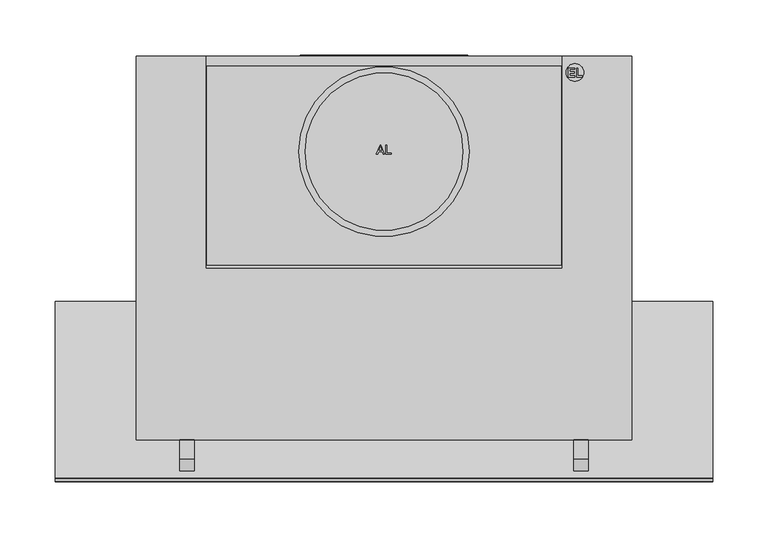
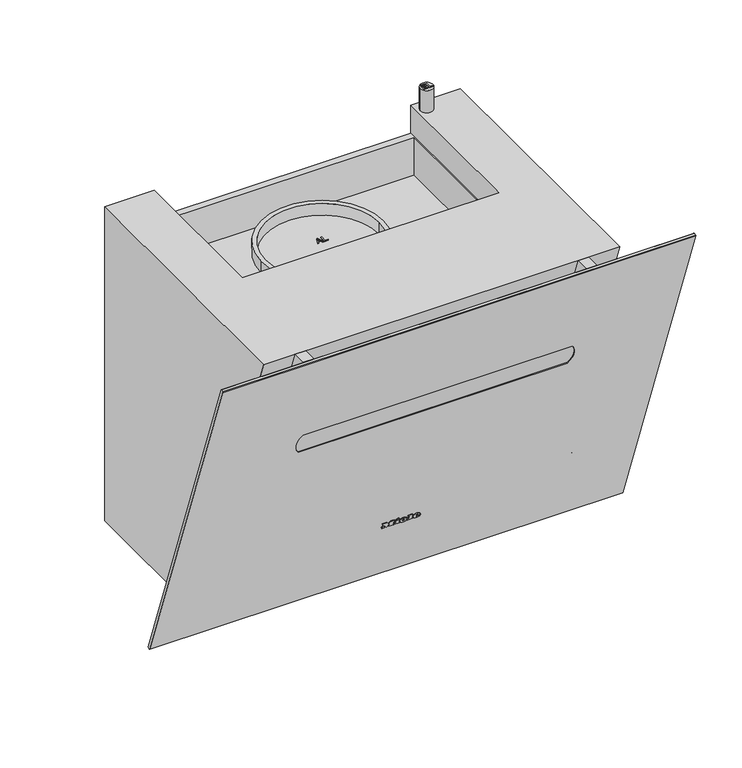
"""IFC4 building model written with IfcOpenShell, lengths in millimetres: proxy geometry, 12553490_IB_DAH1650_BRWS : 28H1650W_IB_12553490_DAH1650_BRWS."""

from ifc_helpers import new_model, si_unit, point, frame, frame_2d, origin, origin_with_axes, place, context, project, spatial, polyline, circle_curve, ellipse_curve, trimmed, segment, composite_curve, outline, extrude, faceted_brep, source, transform, mapped, element, save
from ifc_brep_helpers import plane_surface, cylinder_surface, revolved_surface, extruded_surface, advanced_brep


def specialty_equipment_b5b5ebc4(model_context):
    return source(origin(), model_context, "Body", "SolidModel", [
        extrude(outline(polyline([(0.0, 0.0), (0.968, 0.0), (0.968, 5.352), (0.0, 5.352), (0.0, 6.696), (3.52, 6.696), (3.52, 5.352), (2.56, 5.352), (2.56, 1.9488753), (6.136, 6.696), (9.728, 1.8807777), (9.728, 5.352), (8.744, 5.352), (8.744, 6.696), (15.128, 6.696), (15.128, 5.352), (14.112, 5.352), (14.112, 0.0), (15.128, 0.0), (15.128, -1.304), (10.256, -1.304), (7.92, 1.696), (5.576, -1.304), (0.0, -1.304), (0.0, 0.0)])), frame((-24.271984, -261.1380975, 82.2921818), z_axis=(0.0, 0.9396926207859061, 0.34202014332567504), x_axis=(1.0, 0.0, 0.0)), (0.0, 0.0, 1.0), 1.0),
        extrude(outline(polyline([(0.0, 0.0), (0.96, 0.0), (0.96, 5.352), (0.0, 5.352), (0.0, 6.696), (6.488, 6.696), (6.488, 5.352), (5.504, 5.352), (5.504, -1.304), (0.0, -1.304), (0.0, 0.0)])), frame((8.192016, -261.1380975, 82.2921818), z_axis=(0.0, 0.9396926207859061, 0.34202014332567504), x_axis=(1.0, 0.0, 0.0)), (0.0, 0.0, 1.0), 1.0),
        extrude(outline(polyline([(0.0, 0.0), (1.4315306, 0.0), (1.4390414, -2.9920869), (0.0109086, -2.9993294), (0.0, 0.0)])), frame((-6.351984, -261.4226582, 83.074006), z_axis=(0.0, 0.9396926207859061, 0.342020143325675), x_axis=(0.42472021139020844, 0.30963927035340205, -0.8507269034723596)), (0.0, 0.0, 1.0), 1.0),
        extrude(outline(polyline([(0.4933907, 2.4141097), (1.7898156, 3.022309), (2.1941493, 2.1604399), (5.1636141, 3.5535222), (4.7592805, 4.4153913), (5.9760369, 4.9862153), (8.6568708, -0.728194), (7.4401145, -1.299018), (7.0459741, -0.4588767), (2.7800843, -2.4601583), (0.4933907, 2.4141097)])), frame((-6.351984, -261.4226582, 83.074006), z_axis=(0.0, 0.9396926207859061, 0.342020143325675), x_axis=(0.42472021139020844, 0.30963927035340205, -0.8507269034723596)), (0.0, 0.0, 1.0), 1.0),
        advanced_brep(
        [(2.392016, -259.4964008, 77.7816572), (2.392016, -259.7727531, 78.5409288), (7.744016, -259.7727531, 78.5409288), (-1.567984, -259.7727531, 78.5409288), (0.632016, -258.8479306, 76.0), (7.608016, -259.4964008, 77.7816572), (5.192016, -259.4964008, 77.7816572), (3.288016, -259.1899507, 76.9396926), (2.392016, -260.1229817, 79.5031741), (2.392016, -260.4212233, 80.3225861), (3.760016, -260.4212233, 80.3225861), (3.760016, -260.1229817, 79.5031741), (2.392016, -258.5567082, 78.1236774), (3.288016, -258.2502581, 77.2817128), (5.192016, -258.5567082, 78.1236774), (7.608016, -258.5567082, 78.1236774), (0.632016, -257.908238, 76.3420201), (-1.567984, -258.8330604, 78.882949), (7.744016, -258.8330604, 78.882949), (2.392016, -258.8330604, 78.882949), (2.392016, -259.1832891, 79.8451942), (3.760016, -259.1832891, 79.8451942), (3.760016, -259.4815306, 80.6646062), (2.392016, -259.4815306, 80.6646062)],
        [
            (0, 1),
            (1, 2),
            (2, 3, ellipse_curve(frame((3.088016, -259.7727531, 78.5409288), z_axis=(0.0, -0.9396926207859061, -0.34202014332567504), x_axis=(-1.0, 0.0, 0.0)), 4.656, 3.848)),
            (3, 4, circle_curve(frame((1.5280596, -259.8657825, 78.7965252), z_axis=(0.0, -0.9396926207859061, -0.34202014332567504), x_axis=(0.0, 0.34202014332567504, -0.9396926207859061)), 3.1079688)),
            (4, 5, circle_curve(frame((2.9948096, -260.5881291, 80.7811561), z_axis=(0.0, -0.9396926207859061, -0.34202014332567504), x_axis=(0.0, 0.34202014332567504, -0.9396926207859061)), 5.6098607)),
            (5, 6),
            (6, 7, circle_curve(frame((3.6790748, -259.7508638, 78.4807885), z_axis=(0.0, 0.9396926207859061, 0.34202014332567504), x_axis=(0.0, 0.34202014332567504, -0.9396926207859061)), 1.6859795)),
            (7, 0, circle_curve(frame((3.288016, -259.4964008, 77.7816572), z_axis=(0.0, 0.9396926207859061, 0.34202014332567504), x_axis=(0.0, 0.34202014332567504, -0.9396926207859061)), 0.896)),
            (8, 9),
            (9, 10, circle_curve(frame((3.076016, -260.4212233, 80.3225861), z_axis=(0.0, 0.9396926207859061, 0.34202014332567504), x_axis=(0.0, 0.34202014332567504, -0.9396926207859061)), 0.684)),
            (10, 11),
            (11, 8),
            (12, 13, circle_curve(frame((3.288016, -258.5567082, 78.1236774), z_axis=(0.0, -0.9396926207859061, -0.34202014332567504), x_axis=(0.0, 0.34202014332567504, -0.9396926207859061)), 0.896)),
            (13, 14, circle_curve(frame((3.6790748, -258.8111712, 78.8228087), z_axis=(0.0, -0.9396926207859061, -0.34202014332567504), x_axis=(0.0, 0.34202014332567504, -0.9396926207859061)), 1.6859795)),
            (14, 15),
            (15, 16, circle_curve(frame((2.9948096, -259.6484365, 81.1231762), z_axis=(0.0, 0.9396926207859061, 0.34202014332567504), x_axis=(0.0, 0.34202014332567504, -0.9396926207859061)), 5.6098607)),
            (16, 17, circle_curve(frame((1.5280596, -258.9260899, 79.1385454), z_axis=(0.0, 0.9396926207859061, 0.34202014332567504), x_axis=(0.0, 0.34202014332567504, -0.9396926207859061)), 3.1079688)),
            (17, 18, ellipse_curve(frame((3.088016, -258.8330604, 78.882949), z_axis=(0.0, 0.9396926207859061, 0.34202014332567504), x_axis=(-1.0, 0.0, 0.0)), 4.656, 3.848)),
            (18, 19),
            (19, 12),
            (20, 21),
            (21, 22),
            (22, 23, circle_curve(frame((3.076016, -259.4815306, 80.6646062), z_axis=(0.0, -0.9396926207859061, -0.34202014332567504), x_axis=(0.0, 0.34202014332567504, -0.9396926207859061)), 0.684)),
            (23, 20),
            (0, 12),
            (19, 1),
            (18, 2),
            (5, 15),
            (14, 6),
            (17, 3),
            (13, 7),
            (16, 4),
            (8, 20),
            (23, 9),
            (22, 10),
            (21, 11),
        ],
        [
            plane_surface(frame((2.392016, -259.7727531, 78.5409288), z_axis=(0.0, -0.9396926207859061, -0.34202014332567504), x_axis=(0.0, -0.34202014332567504, 0.9396926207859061))),
            plane_surface(frame((2.392016, -258.8330604, 78.882949), z_axis=(0.0, 0.9396926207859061, 0.34202014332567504), x_axis=(0.0, 0.34202014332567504, -0.9396926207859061))),
            plane_surface(frame((2.392016, -259.4964008, 77.7816572), z_axis=(1.0, 0.0, 0.0), x_axis=(0.0, 0.9396926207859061, 0.34202014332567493))),
            plane_surface(frame((2.392016, -259.7727531, 78.5409288), z_axis=(0.0, 0.34202014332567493, -0.9396926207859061), x_axis=(0.0, 0.9396926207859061, 0.34202014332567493))),
            plane_surface(frame((7.608016, -259.4964008, 77.7816572), z_axis=(0.0, -0.34202014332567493, 0.9396926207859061), x_axis=(0.0, 0.9396926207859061, 0.34202014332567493))),
            extruded_surface(trimmed(ellipse_curve(frame((3.088016, -257.8933678, 79.2249691), z_axis=(0.0, -0.9396926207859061, -0.34202014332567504), x_axis=(-1.0, 0.0, 0.0)), 4.656, 3.848), [point((7.744016, -257.8933678, 79.2249691))], [point((-1.567984, -257.8933678, 79.2249691))], True, "CARTESIAN"), (0.0, -0.9396926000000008, -0.34202009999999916), 0.9999999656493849),
            revolved_surface(polyline([(3.6790748, -258.2345321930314, 77.23850622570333), (3.6790748, -259.1742248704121, 76.89648606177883)]), (3.6790748, -258.8111712, 78.8228087), (0.0, 0.9396926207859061, 0.34202014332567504)),
            revolved_surface(polyline([(3.288016, -258.25025810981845, 77.28171282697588), (3.288016, -259.1899507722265, 76.93969266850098)]), (3.288016, -258.5567082, 78.1236774), (0.0, 0.9396926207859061, 0.34202014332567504)),
            cylinder_surface(frame((1.5280596, -258.9260899, 79.1385454), z_axis=(0.0, -0.9396926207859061, -0.34202014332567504), x_axis=(0.0, 0.34202014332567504, -0.9396926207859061)), 3.1079688),
            cylinder_surface(frame((2.9948096, -259.6484365, 81.1231762), z_axis=(0.0, -0.9396926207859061, -0.34202014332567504), x_axis=(0.0, 0.34202014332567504, -0.9396926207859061)), 5.6098607),
            plane_surface(frame((2.392016, -260.1229817, 79.5031741), z_axis=(1.0, 0.0, 0.0), x_axis=(0.0, 0.9396926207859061, 0.34202014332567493))),
            revolved_surface(polyline([(3.076016, -259.2475888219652, 80.02185644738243), (3.076016, -260.1872814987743, 79.67983628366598)]), (3.076016, -259.4815306, 80.6646062), (0.0, 0.9396926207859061, 0.34202014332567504)),
            plane_surface(frame((3.760016, -260.4212233, 80.3225861), z_axis=(-1.0, 0.0, 0.0), x_axis=(0.0, 0.9396926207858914, 0.3420201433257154))),
            plane_surface(frame((3.760016, -260.1229817, 79.5031741), z_axis=(0.0, -0.34202014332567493, 0.9396926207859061), x_axis=(0.0, 0.9396926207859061, 0.34202014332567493))),
        ],
        [
            (0, [[1, 2, 3, 4, 5, 6, 7, 8], [9, 10, 11, 12]]),
            (1, [[13, 14, 15, 16, 17, 18, 19, 20], [21, 22, 23, 24]]),
            (2, [[-1, 25, -20, 26]]),
            (3, [[-2, -26, -19, 27]]),
            (4, [[-6, 28, -15, 29]]),
            (5, [[-3, -27, -18, 30]]),
            (6, [[-7, -29, -14, 31]]),
            (7, [[-8, -31, -13, -25]]),
            (8, [[-4, -30, -17, 32]]),
            (9, [[-5, -32, -16, -28]]),
            (10, [[-9, 33, -24, 34]]),
            (11, [[-10, -34, -23, 35]]),
            (12, [[-11, -35, -22, 36]]),
            (13, [[-12, -36, -21, -33]]),
        ],
    ),
        advanced_brep(
        [(19.088016, -259.4964008, 77.7816572), (19.088016, -259.7727531, 78.5409288), (24.440016, -259.7727531, 78.5409288), (15.128016, -259.7727531, 78.5409288), (17.328016, -258.8479306, 76.0), (24.304016, -259.4964008, 77.7816572), (21.888016, -259.4964008, 77.7816572), (19.984016, -259.1899507, 76.9396926), (19.088016, -260.1229817, 79.5031741), (19.088016, -260.4212233, 80.3225861), (20.456016, -260.4212233, 80.3225861), (20.456016, -260.1229817, 79.5031741), (19.088016, -258.5567082, 78.1236774), (19.984016, -258.2502581, 77.2817128), (21.888016, -258.5567082, 78.1236774), (24.304016, -258.5567082, 78.1236774), (17.328016, -257.908238, 76.3420201), (15.128016, -258.8330604, 78.882949), (24.440016, -258.8330604, 78.882949), (19.088016, -258.8330604, 78.882949), (19.088016, -259.1832891, 79.8451942), (20.456016, -259.1832891, 79.8451942), (20.456016, -259.4815306, 80.6646062), (19.088016, -259.4815306, 80.6646062)],
        [
            (0, 1),
            (1, 2),
            (2, 3, ellipse_curve(frame((19.784016, -259.7727531, 78.5409288), z_axis=(0.0, -0.9396926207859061, -0.34202014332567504), x_axis=(-1.0, 0.0, 0.0)), 4.656, 3.848)),
            (3, 4, circle_curve(frame((18.2240596, -259.8657825, 78.7965252), z_axis=(0.0, -0.9396926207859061, -0.34202014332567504), x_axis=(0.0, 0.34202014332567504, -0.9396926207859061)), 3.1079688)),
            (4, 5, circle_curve(frame((19.6908096, -260.5881291, 80.7811561), z_axis=(0.0, -0.9396926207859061, -0.34202014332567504), x_axis=(0.0, 0.34202014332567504, -0.9396926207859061)), 5.6098607)),
            (5, 6),
            (6, 7, circle_curve(frame((20.3750748, -259.7508638, 78.4807885), z_axis=(0.0, 0.9396926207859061, 0.34202014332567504), x_axis=(0.0, 0.34202014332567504, -0.9396926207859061)), 1.6859795)),
            (7, 0, circle_curve(frame((19.984016, -259.4964008, 77.7816572), z_axis=(0.0, 0.9396926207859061, 0.34202014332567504), x_axis=(0.0, 0.34202014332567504, -0.9396926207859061)), 0.896)),
            (8, 9),
            (9, 10, circle_curve(frame((19.772016, -260.4212233, 80.3225861), z_axis=(0.0, 0.9396926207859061, 0.34202014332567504), x_axis=(0.0, 0.34202014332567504, -0.9396926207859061)), 0.684)),
            (10, 11),
            (11, 8),
            (12, 13, circle_curve(frame((19.984016, -258.5567082, 78.1236774), z_axis=(0.0, -0.9396926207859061, -0.34202014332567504), x_axis=(0.0, 0.34202014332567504, -0.9396926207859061)), 0.896)),
            (13, 14, circle_curve(frame((20.3750748, -258.8111712, 78.8228087), z_axis=(0.0, -0.9396926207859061, -0.34202014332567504), x_axis=(0.0, 0.34202014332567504, -0.9396926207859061)), 1.6859795)),
            (14, 15),
            (15, 16, circle_curve(frame((19.6908096, -259.6484365, 81.1231762), z_axis=(0.0, 0.9396926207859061, 0.34202014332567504), x_axis=(0.0, 0.34202014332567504, -0.9396926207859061)), 5.6098607)),
            (16, 17, circle_curve(frame((18.2240596, -258.9260899, 79.1385454), z_axis=(0.0, 0.9396926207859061, 0.34202014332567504), x_axis=(0.0, 0.34202014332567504, -0.9396926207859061)), 3.1079688)),
            (17, 18, ellipse_curve(frame((19.784016, -258.8330604, 78.882949), z_axis=(0.0, 0.9396926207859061, 0.34202014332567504), x_axis=(-1.0, 0.0, 0.0)), 4.656, 3.848)),
            (18, 19),
            (19, 12),
            (20, 21),
            (21, 22),
            (22, 23, circle_curve(frame((19.772016, -259.4815306, 80.6646062), z_axis=(0.0, -0.9396926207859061, -0.34202014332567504), x_axis=(0.0, 0.34202014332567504, -0.9396926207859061)), 0.684)),
            (23, 20),
            (0, 12),
            (19, 1),
            (18, 2),
            (5, 15),
            (14, 6),
            (17, 3),
            (13, 7),
            (16, 4),
            (8, 20),
            (23, 9),
            (22, 10),
            (21, 11),
        ],
        [
            plane_surface(frame((19.088016, -259.7727531, 78.5409288), z_axis=(0.0, -0.9396926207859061, -0.34202014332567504), x_axis=(0.0, -0.34202014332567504, 0.9396926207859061))),
            plane_surface(frame((19.088016, -258.8330604, 78.882949), z_axis=(0.0, 0.9396926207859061, 0.34202014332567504), x_axis=(0.0, 0.34202014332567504, -0.9396926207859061))),
            plane_surface(frame((19.088016, -259.4964008, 77.7816572), z_axis=(1.0, 0.0, 0.0), x_axis=(0.0, 0.9396926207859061, 0.34202014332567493))),
            plane_surface(frame((19.088016, -259.7727531, 78.5409288), z_axis=(0.0, 0.34202014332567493, -0.9396926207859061), x_axis=(0.0, 0.9396926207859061, 0.34202014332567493))),
            plane_surface(frame((24.304016, -259.4964008, 77.7816572), z_axis=(0.0, -0.34202014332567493, 0.9396926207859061), x_axis=(0.0, 0.9396926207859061, 0.34202014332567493))),
            extruded_surface(trimmed(ellipse_curve(frame((19.784016, -257.8933678, 79.2249691), z_axis=(0.0, -0.9396926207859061, -0.34202014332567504), x_axis=(-1.0, 0.0, 0.0)), 4.656, 3.848), [point((24.440016, -257.8933678, 79.2249691))], [point((15.128016, -257.8933678, 79.2249691))], True, "CARTESIAN"), (0.0, -0.9396926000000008, -0.34202009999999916), 0.9999999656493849),
            revolved_surface(polyline([(20.3750748, -258.2345321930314, 77.23850622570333), (20.3750748, -259.1742248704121, 76.89648606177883)]), (20.3750748, -258.8111712, 78.8228087), (0.0, 0.9396926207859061, 0.34202014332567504)),
            revolved_surface(polyline([(19.984016, -258.25025810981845, 77.28171282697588), (19.984016, -259.1899507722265, 76.93969266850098)]), (19.984016, -258.5567082, 78.1236774), (0.0, 0.9396926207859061, 0.34202014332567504)),
            cylinder_surface(frame((18.2240596, -258.9260899, 79.1385454), z_axis=(0.0, -0.9396926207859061, -0.34202014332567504), x_axis=(0.0, 0.34202014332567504, -0.9396926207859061)), 3.1079688),
            cylinder_surface(frame((19.6908096, -259.6484365, 81.1231762), z_axis=(0.0, -0.9396926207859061, -0.34202014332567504), x_axis=(0.0, 0.34202014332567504, -0.9396926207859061)), 5.6098607),
            plane_surface(frame((19.088016, -260.1229817, 79.5031741), z_axis=(1.0, 0.0, 0.0), x_axis=(0.0, 0.9396926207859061, 0.34202014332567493))),
            revolved_surface(polyline([(19.772016, -259.2475888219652, 80.02185644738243), (19.772016, -260.1872814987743, 79.67983628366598)]), (19.772016, -259.4815306, 80.6646062), (0.0, 0.9396926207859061, 0.34202014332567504)),
            plane_surface(frame((20.456016, -260.4212233, 80.3225861), z_axis=(-1.0, 0.0, 0.0), x_axis=(0.0, 0.9396926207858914, 0.3420201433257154))),
            plane_surface(frame((20.456016, -260.1229817, 79.5031741), z_axis=(0.0, -0.34202014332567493, 0.9396926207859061), x_axis=(0.0, 0.9396926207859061, 0.34202014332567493))),
        ],
        [
            (0, [[1, 2, 3, 4, 5, 6, 7, 8], [9, 10, 11, 12]]),
            (1, [[13, 14, 15, 16, 17, 18, 19, 20], [21, 22, 23, 24]]),
            (2, [[-1, 25, -20, 26]]),
            (3, [[-2, -26, -19, 27]]),
            (4, [[-6, 28, -15, 29]]),
            (5, [[-3, -27, -18, 30]]),
            (6, [[-7, -29, -14, 31]]),
            (7, [[-8, -31, -13, -25]]),
            (8, [[-4, -30, -17, 32]]),
            (9, [[-5, -32, -16, -28]]),
            (10, [[-9, 33, -24, 34]]),
            (11, [[-10, -34, -23, 35]]),
            (12, [[-11, -35, -22, 36]]),
            (13, [[-12, -36, -21, -33]]),
        ],
    ),
        advanced_brep(
        [(-198.5, -225.9485265, 82.132138), (-198.5, -235.8911369, 109.4492355), (-198.5, -230.9198317, 95.7906867), (-198.5, -231.2422284, 80.5173231), (-198.5, -240.9843308, 107.2835295), (-198.5, -250.514978, 76.8365225), (-198.5, -258.1140866, 97.7149017), (-198.5, -251.4164577, 77.3487429), (-198.5, -258.4754112, 96.7430581), (-198.5, -254.9459345, 87.0459005)],
        [
            (0, 1, circle_curve(frame((-198.5, -230.9198317, 95.7906867), z_axis=(0.0, 0.9396926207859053, 0.3420201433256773), x_axis=(0.0, -0.3420201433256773, 0.9396926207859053)), 14.535124)),
            (1, 2),
            (2, 0),
            (1, 0, circle_curve(frame((-198.5, -230.9198317, 95.7906867), z_axis=(0.0, 0.9396926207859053, 0.3420201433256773), x_axis=(0.0, -0.3420201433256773, 0.9396926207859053)), 14.535124)),
            (3, 4, circle_curve(frame((-198.5, -236.1132796, 93.9004263), z_axis=(0.0, 0.9396926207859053, 0.3420201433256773), x_axis=(0.0, -0.3420201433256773, 0.9396926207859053)), 14.2420009)),
            (4, 1),
            (0, 3),
            (4, 3, circle_curve(frame((-198.5, -236.1132796, 93.9004263), z_axis=(0.0, 0.9396926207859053, 0.3420201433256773), x_axis=(0.0, -0.3420201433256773, 0.9396926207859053)), 14.2420009)),
            (5, 6, circle_curve(frame((-198.5, -254.3145323, 87.2757121), z_axis=(0.0, 0.9396926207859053, 0.3420201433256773), x_axis=(0.0, -0.3420201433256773, 0.9396926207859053)), 11.1091535)),
            (6, 4),
            (3, 5),
            (6, 5, circle_curve(frame((-198.5, -254.3145323, 87.2757121), z_axis=(0.0, 0.9396926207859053, 0.3420201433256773), x_axis=(0.0, -0.3420201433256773, 0.9396926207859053)), 11.1091535)),
            (7, 8, circle_curve(frame((-198.5, -254.9459345, 87.0459005), z_axis=(0.0, 0.9396926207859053, 0.3420201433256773), x_axis=(0.0, -0.3420201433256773, 0.9396926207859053)), 10.3194996)),
            (8, 6),
            (5, 7),
            (8, 7, circle_curve(frame((-198.5, -254.9459345, 87.0459005), z_axis=(0.0, 0.9396926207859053, 0.3420201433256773), x_axis=(0.0, -0.3420201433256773, 0.9396926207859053)), 10.3194996)),
            (9, 8),
            (7, 9),
        ],
        [
            plane_surface(frame((-198.5, -230.9198317, 95.7906867), z_axis=(0.0, 0.9396926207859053, 0.3420201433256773), x_axis=(0.0, -0.3420201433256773, 0.9396926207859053))),
            revolved_surface(polyline([(-198.5, -235.8312261, 109.4708926), (-198.5, -240.9843308, 107.2835295)]), (-198.5, -255.2773841, 86.9252627), (0.0, -0.9396926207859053, -0.3420201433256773)),
            revolved_surface(polyline([(-198.5, -240.9843308, 107.2835295), (-198.5, -258.1140866, 97.7149017)]), (-198.5, -255.2773841, 86.9252627), (0.0, -0.9396926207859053, -0.3420201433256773)),
            revolved_surface(polyline([(-198.5, -258.1140866, 97.7149017), (-198.5, -258.4754112, 96.7430581)]), (-198.5, -255.2773841, 86.9252627), (0.0, -0.9396926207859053, -0.3420201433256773)),
            plane_surface(frame((-198.5, -254.9459345, 87.0459005), z_axis=(0.0, -0.9396926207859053, -0.3420201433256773), x_axis=(0.0, -0.3420201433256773, 0.9396926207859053))),
        ],
        [
            (0, [[1, 2, 3]]),
            (0, [[4, -3, -2]]),
            (1, [[5, 6, -1, 7]]),
            (1, [[8, -7, -4, -6]]),
            (2, [[9, 10, -5, 11]]),
            (2, [[12, -11, -8, -10]]),
            (3, [[13, 14, -9, 15]]),
            (3, [[16, -15, -12, -14]]),
            (4, [[17, -13, 18]]),
            (4, [[-18, -16, -17]]),
        ],
    ),
        advanced_brep(
        [(-198.5, -249.4001153, 68.4387353), (-198.5, -262.8067778, 105.2732379), (-198.5, -257.0531232, 93.8737841), (-198.5, -252.3199878, 80.8696014), (-198.5, -250.699917, 68.232867), (-198.5, -263.9348133, 104.5954458), (-198.5, -257.3173652, 86.4141564), (-198.5, -254.6865555, 87.3716928)],
        [
            (0, 1, circle_curve(frame((-198.5, -256.1034466, 86.8559866), z_axis=(0.0, 0.9396926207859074, 0.34202014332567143), x_axis=(0.0, -0.34202014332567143, 0.9396926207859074)), 19.5992294)),
            (1, 2),
            (2, 3, circle_curve(frame((-198.5, -254.6865555, 87.3716928), z_axis=(0.0, -0.9396926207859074, -0.34202014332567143), x_axis=(0.0, -0.34202014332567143, 0.9396926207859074)), 6.9193811)),
            (3, 0),
            (1, 0, circle_curve(frame((-198.5, -256.1034466, 86.8559866), z_axis=(0.0, 0.9396926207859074, 0.34202014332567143), x_axis=(0.0, -0.34202014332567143, 0.9396926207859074)), 19.5992294)),
            (3, 2, circle_curve(frame((-198.5, -254.6865555, 87.3716928), z_axis=(0.0, -0.9396926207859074, -0.34202014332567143), x_axis=(0.0, -0.34202014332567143, 0.9396926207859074)), 6.9193811)),
            (4, 5, circle_curve(frame((-198.5, -257.3173652, 86.4141564), z_axis=(0.0, 0.9396926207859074, 0.34202014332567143), x_axis=(0.0, -0.34202014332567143, 0.9396926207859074)), 19.3481241)),
            (5, 1),
            (0, 4),
            (5, 4, circle_curve(frame((-198.5, -257.3173652, 86.4141564), z_axis=(0.0, 0.9396926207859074, 0.34202014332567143), x_axis=(0.0, -0.34202014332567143, 0.9396926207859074)), 19.3481241)),
            (6, 5),
            (4, 6),
            (2, 7),
            (7, 3),
        ],
        [
            revolved_surface(polyline([(-198.5, -257.0531232, 93.8737841), (-198.5, -262.8067778, 105.2732379)]), (-198.5, -254.6865555, 87.3716928), (0.0, -0.9396926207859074, -0.34202014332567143)),
            revolved_surface(polyline([(-198.5, -262.8067778, 105.2732379), (-198.5, -263.9348133, 104.5954458)]), (-198.5, -254.6865555, 87.3716928), (0.0, -0.9396926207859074, -0.34202014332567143)),
            plane_surface(frame((-198.5, -257.3173652, 86.4141564), z_axis=(0.0, -0.9396926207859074, -0.34202014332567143), x_axis=(0.0, -0.34202014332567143, 0.9396926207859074))),
            plane_surface(frame((-198.5, -254.6865555, 87.3716928), z_axis=(0.0, 0.9396926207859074, 0.34202014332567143), x_axis=(0.0, -0.34202014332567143, 0.9396926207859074))),
        ],
        [
            (0, [[1, 2, 3, 4]]),
            (0, [[5, -4, 6, -2]]),
            (1, [[7, 8, -1, 9]]),
            (1, [[10, -9, -5, -8]]),
            (2, [[11, -7, 12]]),
            (2, [[-12, -10, -11]]),
            (3, [[-3, 13, 14]]),
            (3, [[-6, -14, -13]]),
        ],
    ),
        advanced_brep(
        [(198.5, -230.9018417, 95.8650227), (198.5, -235.8509293, 109.4625291), (198.5, -225.9091808, 82.1477994), (198.5, -240.9843308, 107.2835295), (198.5, -231.2422284, 80.5173231), (198.5, -258.1140866, 97.7149017), (198.5, -250.514978, 76.8365225), (198.5, -258.4754112, 96.7430581), (198.5, -251.4164577, 77.3487429), (198.5, -254.9459345, 87.0459005)],
        [
            (0, 1),
            (1, 2, circle_curve(frame((198.5, -230.8800551, 95.8051643), z_axis=(0.0, 0.9396926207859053, 0.3420201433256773), x_axis=(0.0, -0.3420201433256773, 0.9396926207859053)), 14.5338641)),
            (2, 0),
            (2, 1, circle_curve(frame((198.5, -230.8800551, 95.8051643), z_axis=(0.0, 0.9396926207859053, 0.3420201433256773), x_axis=(0.0, -0.3420201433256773, 0.9396926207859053)), 14.5338641)),
            (1, 3),
            (3, 4, circle_curve(frame((198.5, -236.1132796, 93.9004263), z_axis=(0.0, 0.9396926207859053, 0.3420201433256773), x_axis=(0.0, -0.3420201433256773, 0.9396926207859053)), 14.2420009)),
            (4, 2),
            (4, 3, circle_curve(frame((198.5, -236.1132796, 93.9004263), z_axis=(0.0, 0.9396926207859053, 0.3420201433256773), x_axis=(0.0, -0.3420201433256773, 0.9396926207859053)), 14.2420009)),
            (3, 5),
            (5, 6, circle_curve(frame((198.5, -254.3145323, 87.2757121), z_axis=(0.0, 0.9396926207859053, 0.3420201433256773), x_axis=(0.0, -0.3420201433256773, 0.9396926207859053)), 11.1091535)),
            (6, 4),
            (6, 5, circle_curve(frame((198.5, -254.3145323, 87.2757121), z_axis=(0.0, 0.9396926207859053, 0.3420201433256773), x_axis=(0.0, -0.3420201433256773, 0.9396926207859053)), 11.1091535)),
            (5, 7),
            (7, 8, circle_curve(frame((198.5, -254.9459345, 87.0459005), z_axis=(0.0, 0.9396926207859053, 0.3420201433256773), x_axis=(0.0, -0.3420201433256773, 0.9396926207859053)), 10.3194996)),
            (8, 6),
            (8, 7, circle_curve(frame((198.5, -254.9459345, 87.0459005), z_axis=(0.0, 0.9396926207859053, 0.3420201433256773), x_axis=(0.0, -0.3420201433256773, 0.9396926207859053)), 10.3194996)),
            (7, 9),
            (9, 8),
        ],
        [
            plane_surface(frame((198.5, -230.8800551, 95.8051643), z_axis=(0.0, 0.9396926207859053, 0.3420201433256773), x_axis=(0.0, -0.3420201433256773, 0.9396926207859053))),
            revolved_surface(polyline([(198.5, -240.9843308, 107.2835295), (198.5, -235.8509293, 109.4625291)]), (198.5, -255.2773841, 86.9252627), (0.0, 0.9396926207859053, 0.3420201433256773)),
            revolved_surface(polyline([(198.5, -258.1140866, 97.7149017), (198.5, -240.9843308, 107.2835295)]), (198.5, -255.2773841, 86.9252627), (0.0, 0.9396926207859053, 0.3420201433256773)),
            revolved_surface(polyline([(198.5, -258.4754112, 96.7430581), (198.5, -258.1140866, 97.7149017)]), (198.5, -255.2773841, 86.9252627), (0.0, 0.9396926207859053, 0.3420201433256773)),
            plane_surface(frame((198.5, -254.9459345, 87.0459005), z_axis=(0.0, -0.9396926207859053, -0.3420201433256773), x_axis=(0.0, -0.3420201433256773, 0.9396926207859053))),
        ],
        [
            (0, [[1, 2, 3]]),
            (0, [[-3, 4, -1]]),
            (1, [[-2, 5, 6, 7]]),
            (1, [[-4, -7, 8, -5]]),
            (2, [[-6, 9, 10, 11]]),
            (2, [[-8, -11, 12, -9]]),
            (3, [[-10, 13, 14, 15]]),
            (3, [[-12, -15, 16, -13]]),
            (4, [[-14, 17, 18]]),
            (4, [[-16, -18, -17]]),
        ],
    ),
        advanced_brep(
        [(198.5, -252.3199878, 80.8696014), (198.5, -257.0531232, 93.8737841), (198.5, -262.8067778, 105.2732379), (198.5, -249.4001153, 68.4387353), (198.5, -263.9348133, 104.5954458), (198.5, -250.699917, 68.232867), (198.5, -257.3173652, 86.4141564), (198.5, -254.6865555, 87.3716928)],
        [
            (0, 1, circle_curve(frame((198.5, -254.6865555, 87.3716928), z_axis=(0.0, -0.9396926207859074, -0.34202014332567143), x_axis=(0.0, -0.34202014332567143, 0.9396926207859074)), 6.9193811)),
            (1, 2),
            (2, 3, circle_curve(frame((198.5, -256.1034466, 86.8559866), z_axis=(0.0, 0.9396926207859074, 0.34202014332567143), x_axis=(0.0, -0.34202014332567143, 0.9396926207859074)), 19.5992294)),
            (3, 0),
            (1, 0, circle_curve(frame((198.5, -254.6865555, 87.3716928), z_axis=(0.0, -0.9396926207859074, -0.34202014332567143), x_axis=(0.0, -0.34202014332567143, 0.9396926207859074)), 6.9193811)),
            (3, 2, circle_curve(frame((198.5, -256.1034466, 86.8559866), z_axis=(0.0, 0.9396926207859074, 0.34202014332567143), x_axis=(0.0, -0.34202014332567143, 0.9396926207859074)), 19.5992294)),
            (2, 4),
            (4, 5, circle_curve(frame((198.5, -257.3173652, 86.4141564), z_axis=(0.0, 0.9396926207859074, 0.34202014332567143), x_axis=(0.0, -0.34202014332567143, 0.9396926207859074)), 19.3481241)),
            (5, 3),
            (5, 4, circle_curve(frame((198.5, -257.3173652, 86.4141564), z_axis=(0.0, 0.9396926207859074, 0.34202014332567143), x_axis=(0.0, -0.34202014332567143, 0.9396926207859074)), 19.3481241)),
            (4, 6),
            (6, 5),
            (7, 1),
            (0, 7),
        ],
        [
            revolved_surface(polyline([(198.5, -262.8067778, 105.2732379), (198.5, -257.0531232, 93.8737841)]), (198.5, -254.6865555, 87.3716928), (0.0, 0.9396926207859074, 0.34202014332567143)),
            revolved_surface(polyline([(198.5, -263.9348133, 104.5954458), (198.5, -262.8067778, 105.2732379)]), (198.5, -254.6865555, 87.3716928), (0.0, 0.9396926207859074, 0.34202014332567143)),
            plane_surface(frame((198.5, -257.3173652, 86.4141564), z_axis=(0.0, -0.9396926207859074, -0.34202014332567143), x_axis=(0.0, -0.34202014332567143, 0.9396926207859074))),
            plane_surface(frame((198.5, -254.6865555, 87.3716928), z_axis=(0.0, 0.9396926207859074, 0.34202014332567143), x_axis=(0.0, -0.34202014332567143, 0.9396926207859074))),
        ],
        [
            (0, [[1, 2, 3, 4]]),
            (0, [[5, -4, 6, -2]]),
            (1, [[-3, 7, 8, 9]]),
            (1, [[-6, -9, 10, -7]]),
            (2, [[-8, 11, 12]]),
            (2, [[-10, -12, -11]]),
            (3, [[13, -1, 14]]),
            (3, [[-14, -5, -13]]),
        ],
    ),
        extrude(outline(polyline([(-377.2541471, 415.9959153), (-366.2530147, 420.0), (-348.8949883, 420.0), (-315.0686278, 327.0628384), (-321.2276447, 324.8211395), (-334.9582954, 325.4920509), (-347.6637142, 334.6968691), (-377.2541471, 415.9959153)])), frame((-185.7167767, 0.0, 0.0), z_axis=(1.0, 0.0, 0.0), x_axis=(0.0, 1.0, 0.0)), (0.0, 0.0, 1.0), 13.4088513),
        extrude(outline(polyline([(-377.2541471, 415.9959153), (-366.2530147, 420.0), (-348.8949883, 420.0), (-315.0686278, 327.0628384), (-321.2276447, 324.8211395), (-334.9582954, 325.4920509), (-347.6637142, 334.6968691), (-377.2541471, 415.9959153)])), frame((172.3079253, 0.0, 0.0), z_axis=(1.0, 0.0, 0.0), x_axis=(0.0, 1.0, 0.0)), (0.0, 0.0, 1.0), 13.4088513),
        advanced_brep(
        [(299.0, -387.1323401, 432.8365045), (299.0, -387.3899893, 432.0882368), (299.0, -227.0596169, -8.4158411), (299.0, -226.3696341, -8.8142029), (299.0, -223.5613092, -7.7920563), (299.0, -223.2772642, -7.0520936), (299.0, -383.5944926, 433.4158714), (299.0, -384.310791, 433.8634644), (-299.0, -387.1323401, 432.8365045), (-299.0, -384.310791, 433.8634644), (-299.0, -383.5944926, 433.4158714), (-299.0, -223.2772642, -7.0520936), (-299.0, -223.5613092, -7.7920563), (-299.0, -226.3696341, -8.8142029), (-299.0, -227.0596169, -8.4158411), (-299.0, -387.3899893, 432.0882368), (-170.0000153, -329.0580322, 271.8225017), (-170.0000153, -339.664028, 300.9622357), (169.9999847, -339.664028, 300.9622357), (169.9999847, -329.0580322, 271.8225017), (-170.0000153, -338.7237973, 301.3044517), (-170.0000153, -328.1178015, 272.1647177), (169.9999847, -328.1178015, 272.1647177), (169.9999847, -338.7237973, 301.3044517)],
        [
            (0, 1),
            (1, 2),
            (2, 3),
            (3, 4),
            (4, 5),
            (5, 6),
            (6, 7),
            (7, 0),
            (8, 9),
            (9, 10),
            (10, 11),
            (11, 12),
            (12, 13),
            (13, 14),
            (14, 15),
            (15, 8),
            (0, 8),
            (15, 1),
            (14, 2),
            (16, 17, circle_curve(frame((-150.89824, -334.3610301, 286.3923687), z_axis=(0.0, 0.9396926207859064, 0.3420201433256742), x_axis=(1.0, 0.0, 0.0)), 24.6024517)),
            (17, 18),
            (18, 19, circle_curve(frame((150.8956421, -334.3610301, 286.3923687), z_axis=(0.0, 0.9396926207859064, 0.3420201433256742), x_axis=(1.0, 0.0, 0.0)), 24.6044451)),
            (19, 16),
            (13, 3),
            (12, 4),
            (11, 5),
            (10, 6),
            (9, 7),
            (20, 21, circle_curve(frame((-150.89824, -333.4207994, 286.7345847), z_axis=(0.0, -0.9396926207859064, -0.3420201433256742), x_axis=(1.0, 0.0, 0.0)), 24.6024517)),
            (21, 22),
            (22, 23, circle_curve(frame((150.8956421, -333.4207994, 286.7345847), z_axis=(0.0, -0.9396926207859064, -0.3420201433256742), x_axis=(1.0, 0.0, 0.0)), 24.6044451)),
            (23, 20),
            (20, 17),
            (16, 21),
            (19, 22),
            (18, 23),
        ],
        [
            plane_surface(frame((299.0, -387.1323401, 432.8365045), z_axis=(1.0, 0.0, 0.0), x_axis=(0.0, -0.32556815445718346, -0.9455185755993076))),
            plane_surface(frame((-299.0, -387.1323401, 432.8365045), z_axis=(-1.0, 0.0, 0.0), x_axis=(0.0, 0.32556815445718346, 0.9455185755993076))),
            plane_surface(frame((299.0, -387.1323401, 432.8365045), z_axis=(0.0, -0.9455185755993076, 0.32556815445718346), x_axis=(-1.0, 0.0, 0.0))),
            plane_surface(frame((299.0, -387.3899893, 432.0882368), z_axis=(0.0, -0.939692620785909, -0.34202014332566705), x_axis=(-1.0, 0.0, 0.0))),
            plane_surface(frame((299.0, -227.0596169, -8.4158411), z_axis=(0.0, -0.49999999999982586, -0.8660254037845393), x_axis=(-1.0, 0.0, 0.0))),
            plane_surface(frame((299.0, -226.3696341, -8.8142029), z_axis=(0.0, 0.34202014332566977, -0.939692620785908), x_axis=(-1.0, 0.0, 0.0))),
            plane_surface(frame((299.0, -223.5613092, -7.7920563), z_axis=(0.0, 0.9335804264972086, -0.35836794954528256), x_axis=(-1.0, 0.0, 0.0))),
            plane_surface(frame((299.0, -223.2772642, -7.0520936), z_axis=(0.0, 0.9396926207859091, 0.3420201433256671), x_axis=(-1.0, 0.0, 0.0))),
            plane_surface(frame((299.0, -383.5944926, 433.4158714), z_axis=(0.0, 0.5299192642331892, 0.8480480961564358), x_axis=(-1.0, 0.0, 0.0))),
            plane_surface(frame((299.0, -384.310791, 433.8634644), z_axis=(0.0, -0.3420201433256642, 0.9396926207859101), x_axis=(-1.0, 0.0, 0.0))),
            plane_surface(frame((-126.2957883, -333.4207994, 286.7345847), z_axis=(0.0, -0.9396926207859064, -0.3420201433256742), x_axis=(0.0, 0.3420201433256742, -0.9396926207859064))),
            revolved_surface(polyline([(-126.29578829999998, -334.3610301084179, 286.3923687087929), (-126.29578829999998, -333.4207993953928, 286.7345847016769)]), (-150.89824, -333.4207994, 286.7345847), (0.0, -0.9396926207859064, -0.3420201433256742)),
            plane_surface(frame((-170.0000153, -333.9337198, 270.0478966), z_axis=(0.0, -0.3420201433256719, 0.9396926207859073), x_axis=(0.0, 0.9396926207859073, 0.3420201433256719))),
            revolved_surface(polyline([(175.5000872, -334.3610301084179, 286.3923687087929), (175.5000872, -333.4207993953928, 286.7345847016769)]), (150.8956421, -333.4207994, 286.7345847), (0.0, -0.9396926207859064, -0.3420201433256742)),
            plane_surface(frame((169.9999847, -344.5397156, 299.1876306), z_axis=(0.0, 0.3420201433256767, -0.9396926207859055), x_axis=(0.0, 0.9396926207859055, 0.3420201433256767))),
        ],
        [
            (0, [[1, 2, 3, 4, 5, 6, 7, 8]]),
            (1, [[9, 10, 11, 12, 13, 14, 15, 16]]),
            (2, [[-1, 17, -16, 18]]),
            (3, [[-2, -18, -15, 19], [20, 21, 22, 23]]),
            (4, [[-3, -19, -14, 24]]),
            (5, [[-4, -24, -13, 25]]),
            (6, [[-5, -25, -12, 26]]),
            (7, [[-6, -26, -11, 27]]),
            (8, [[-7, -27, -10, 28]]),
            (9, [[-8, -28, -9, -17]]),
            (10, [[29, 30, 31, 32]]),
            (11, [[-29, 33, -20, 34]]),
            (12, [[-30, -34, -23, 35]]),
            (13, [[-31, -35, -22, 36]]),
            (14, [[-32, -36, -21, -33]]),
        ],
    ),
        faceted_brep([(225.0000193, -349.0, 420.0), (225.0000193, -196.2332597, 0.0), (225.0000193, 0.0, 0.0), (225.0000193, 0.0, 420.0), (-225.0000193, -349.0, 420.0), (-225.0000193, 0.0, 420.0), (-225.0000193, 0.0, 0.0), (-225.0000193, -196.2332597, 0.0), (176.5, -48.0, 0.0), (-176.5, -48.0, 0.0), (-176.5, -181.0, 0.0), (176.5, -181.0, 0.0), (125.0, -12.0, 0.0), (-125.0, -12.0, 0.0), (-125.0, -38.0, 0.0), (125.0, -38.0, 0.0), (-162.2229137, 0.0, 420.0), (-162.2229137, 0.0, 382.5), (162.2229137, 0.0, 382.5), (162.2229137, 0.0, 420.0), (162.2229137, -193.2332597, 420.0), (-162.2229137, -193.2332597, 420.0), (160.9556997, -9.0, 332.0), (-160.9556997, -9.0, 332.0), (-160.9556997, -190.0399284, 332.0), (160.9556997, -190.0399284, 332.0), (160.9556997, -9.0, 382.5), (-160.9556997, -9.0, 382.5), (-160.9556997, -190.0399284, 382.5), (160.9556997, -190.0399284, 382.5), (176.5, -48.0, 11.0), (176.5, -181.0, 11.0), (-176.5, -181.0, 11.0), (-176.5, -48.0, 11.0), (125.0, -12.0, 11.0), (125.0, -38.0, 11.0), (-125.0, -38.0, 11.0), (-125.0, -12.0, 11.0), (162.2229137, -193.2332597, 382.5), (-162.2229137, -193.2332597, 382.5)], [[[0, 1, 2, 3]], [[4, 5, 6, 7]], [[1, 0, 4, 7]], [[2, 1, 7, 6], [8, 9, 10, 11], [12, 13, 14, 15]], [[3, 2, 6, 5, 16, 17, 18, 19]], [[0, 3, 19, 20, 21, 16, 5, 4]], [[22, 23, 24, 25]], [[23, 22, 26, 27]], [[24, 23, 27, 28]], [[25, 24, 28, 29]], [[22, 25, 29, 26]], [[30, 31, 32, 33]], [[30, 33, 9, 8]], [[33, 32, 10, 9]], [[32, 31, 11, 10]], [[31, 30, 8, 11]], [[34, 35, 36, 37]], [[34, 37, 13, 12]], [[37, 36, 14, 13]], [[36, 35, 15, 14]], [[35, 34, 12, 15]], [[20, 38, 39, 21]], [[39, 38, 18, 17], [27, 26, 29, 28]], [[38, 20, 19, 18]], [[21, 39, 17, 16]]]),
        extrude(outline(polyline([(125.0, -12.0), (125.0, -38.0), (-125.0, -38.0), (-125.0, -12.0), (125.0, -12.0)]), holes=[polyline([(-119.0, -31.2), (119.0, -31.2), (119.0, -18.8), (-119.0, -18.8), (-119.0, -31.2)])]), origin_with_axes(), (0.0, 0.0, 1.0), 11.0),
        extrude(outline(polyline([(119.0, -18.8), (119.0, -31.2), (-119.0, -31.2), (-119.0, -18.8), (119.0, -18.8)])), origin_with_axes(), (0.0, 0.0, 1.0), 11.0),
        extrude(outline(polyline([(176.5, -48.0), (176.5, -181.0), (-176.5, -181.0), (-176.5, -48.0), (176.5, -48.0)]), holes=[polyline([(167.5, -57.0), (-167.5, -57.0), (-167.5, -172.0), (167.5, -172.0), (167.5, -57.0)])]), origin_with_axes(), (0.0, 0.0, 1.0), 11.0),
        extrude(outline(polyline([(167.5, -57.0), (167.5, -172.0), (-167.5, -172.0), (-167.5, -57.0), (167.5, -57.0)])), frame((0.0, 0.0, 1.0), z_axis=(0.0, 0.0, 1.0), x_axis=(1.0, 0.0, 0.0)), (0.0, 0.0, 1.0), 10.0),
        extrude(outline(polyline([(-167.5, -98.0), (-124.5000193, -98.0), (-124.5000193, -131.0), (-167.5, -131.0), (-167.5, -98.0)]), holes=[polyline([(-131.0000193, -104.5), (-160.0000193, -104.5), (-160.0000193, -124.5), (-131.0000193, -124.5), (-131.0000193, -104.5)])]), origin_with_axes(), (0.0, 0.0, 1.0), 1.0),
        extrude(outline(polyline([(-131.0000193, -104.5), (-131.0000193, -124.5), (-140.0000193, -124.5), (-140.0000193, -104.5), (-131.0000193, -104.5)])), origin_with_axes(), (0.0, 0.0, 1.0), 1.0),
        extrude(outline(composite_curve([segment(trimmed(circle_curve(frame_2d((0.0, -86.9971466)), 77.2963157), [point((-77.2963157, -86.9971466))], [point((77.2963157, -86.9971466))], False, "CARTESIAN"), True, "CONTINUOUS"), segment(trimmed(circle_curve(frame_2d((0.0, -86.9971466)), 77.2963157), [point((77.2963157, -86.9971466))], [point((-77.2963157, -86.9971466))], False, "CARTESIAN"), True, "CONTINUOUS")], self_intersect=False), holes=[composite_curve([segment(trimmed(circle_curve(frame_2d((0.0, -86.9971466)), 71.617422), [point((-71.617422, -86.9971466))], [point((71.617422, -86.9971466))], True, "CARTESIAN"), True, "CONTINUOUS"), segment(trimmed(circle_curve(frame_2d((0.0, -86.9971466)), 71.617422), [point((71.617422, -86.9971466))], [point((-71.617422, -86.9971466))], True, "CARTESIAN"), True, "CONTINUOUS")], self_intersect=False)]), frame((0.0, 0.0, 332.0), z_axis=(0.0, 0.0, 1.0), x_axis=(1.0, 0.0, 0.0)), (0.0, 0.0, 1.0), 15.9326282),
        extrude(outline(polyline([(-6.8377, -89.2416424), (-3.629769, -81.2051375), (-2.7743208, -81.2051375), (0.4336102, -89.2416424), (-0.6278519, -89.2416424), (-1.5480474, -86.7302346), (-4.8580044, -86.7302346), (-5.7762378, -89.2416424), (-6.8377, -89.2416424)]), holes=[polyline([(-4.4891414, -85.7256715), (-1.9149484, -85.7256715), (-2.6389402, -83.7498999), (-3.2020449, -82.2097006), (-3.7023644, -83.5772407), (-4.4891414, -85.7256715)])]), frame((0.0, 0.0, 347.9326282), z_axis=(0.0, 0.0, 1.0), x_axis=(1.0, 0.0, 0.0)), (0.0, 0.0, 1.0), 1.0),
        extrude(outline(polyline([(1.5068447, -89.2416424), (1.5068447, -81.2051375), (2.5114078, -81.2051375), (2.5114078, -88.2370793), (6.5296602, -88.2370793), (6.5296602, -89.2416424), (1.5068447, -89.2416424)])), frame((0.0, 0.0, 347.9326282), z_axis=(0.0, 0.0, 1.0), x_axis=(1.0, 0.0, 0.0)), (0.0, 0.0, 1.0), 1.0),
        extrude(outline(composite_curve([segment(trimmed(circle_curve(frame_2d((192.5519409, 0.0)), 76.1990432), [point((192.5519409, -76.1990432))], [point((192.5519409, 76.1990432))], False, "CARTESIAN"), True, "CONTINUOUS"), segment(trimmed(circle_curve(frame_2d((192.5519409, 0.0)), 76.1990432), [point((192.5519409, 76.1990432))], [point((192.5519409, -76.1990432))], False, "CARTESIAN"), True, "CONTINUOUS")], self_intersect=False)), frame((0.0, 0.0, 0.0), z_axis=(0.0, 1.0, 0.0), x_axis=(0.0, 0.0, 1.0)), (0.0, 0.0, 1.0), 1.0),
        extrude(outline(composite_curve([segment(trimmed(circle_curve(frame_2d((173.4999807, -15.0000005)), 8.0), [point((165.4999807, -15.0000005))], [point((181.4999807, -15.0000005))], False, "CARTESIAN"), True, "CONTINUOUS"), segment(trimmed(circle_curve(frame_2d((173.4999807, -15.0000005)), 8.0), [point((181.4999807, -15.0000005))], [point((165.4999807, -15.0000005))], False, "CARTESIAN"), True, "CONTINUOUS")], self_intersect=False)), frame((0.0, 0.0, 420.0), z_axis=(0.0, 0.0, 1.0), x_axis=(1.0, 0.0, 0.0)), (0.0, 0.0, 1.0), 30.0),
        extrude(outline(polyline([(167.5981725, -19.0000005), (167.5981725, -10.9634957), (173.3744104, -10.9634957), (173.3744104, -11.9680588), (168.6027356, -11.9680588), (168.6027356, -14.3538961), (173.1232696, -14.3538961), (173.1232696, -15.3584592), (168.6027356, -15.3584592), (168.6027356, -17.9954374), (173.4999807, -17.9954374), (173.4999807, -19.0000005), (167.5981725, -19.0000005)])), frame((0.0, 0.0, 450.0), z_axis=(0.0, 0.0, 1.0), x_axis=(1.0, 0.0, 0.0)), (0.0, 0.0, 1.0), 1.0),
        extrude(outline(polyline([(175.0068254, -19.0000005), (175.0068254, -10.9634957), (176.0113885, -10.9634957), (176.0113885, -17.9954374), (180.0296409, -17.9954374), (180.0296409, -19.0000005), (175.0068254, -19.0000005)])), frame((0.0, 0.0, 450.0), z_axis=(0.0, 0.0, 1.0), x_axis=(1.0, 0.0, 0.0)), (0.0, 0.0, 1.0), 1.0),
    ])


if __name__ == "__main__":
    model = new_model("IFC4")
    model_context = context("Model", 3, world=origin())
    ifc_project = project(units=[si_unit("LENGTHUNIT", "METRE", prefix="MILLI")], contexts=[model_context])
    site = spatial("IfcSite", under=ifc_project)
    building = spatial("IfcBuilding", under=site)
    placement = place(None, origin())
    specialty_equipment_shape = specialty_equipment_b5b5ebc4(model_context)
    element("IfcBuildingElementProxy", 1, Name="12553490_IB_DAH1650_BRWS : 28H1650W_IB_12553490_DAH1650_BRWS", ObjectType="12553490_IB_DAH1650_BRWS : 28H1650W_IB_12553490_DAH1650_BRWS", at=placement, inside=building, context=model_context, shape_type="MappedRepresentation", body=[
        mapped(specialty_equipment_shape, transform((0.0, 0.0, 0.0), x_axis=(1.0, 0.0, 0.0), y_axis=(0.0, 1.0, 0.0), z_axis=(0.0, 0.0, 1.0))),
    ])
    save(model, "model.ifc")
